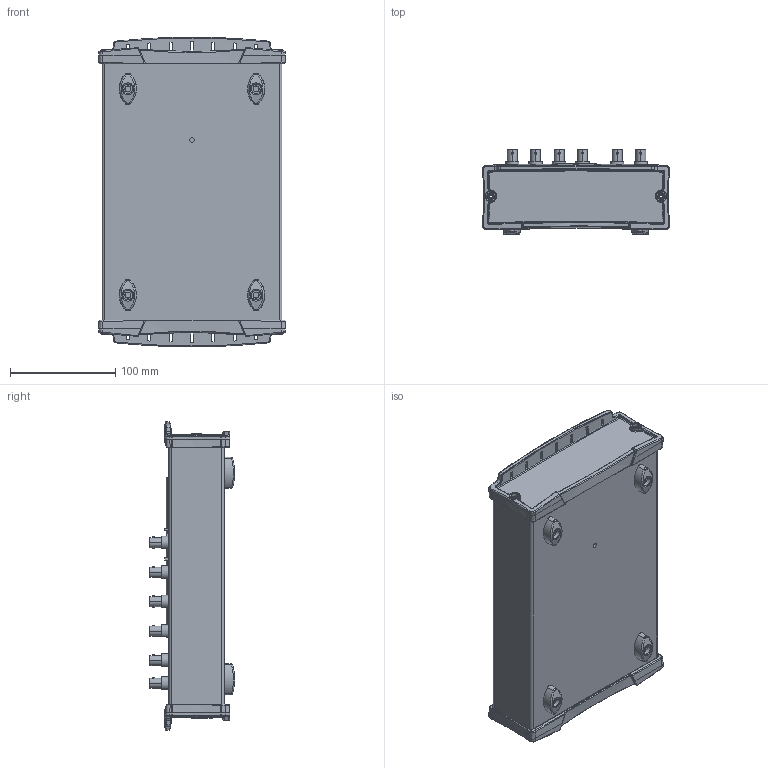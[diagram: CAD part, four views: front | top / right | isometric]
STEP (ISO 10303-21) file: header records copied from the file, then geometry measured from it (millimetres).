
FILE_DESCRIPTION((''),'2;1');
FILE_NAME('CU_USB-6251','2007-11-15T',('tvenable'),(''),'PRO/ENGINEER BY PARAMETRIC TECHNOLOGY CORPORATION, 2006080','PRO/ENGINEER BY PARAMETRIC TECHNOLOGY CORPORATION, 2006080','');
FILE_SCHEMA(('CONFIG_CONTROL_DESIGN'));
Products named in the file (1): CU_USB-6251
Bounding box: 177.29 x 81.15 x 294.13 mm (x, y, z)
Volume: 626128.8 mm3; surface area: 437572.8 mm2
Topology: 19 solids, 19 shells, 4675 faces, 11472 edges, 7428 vertices
Faces by surface type: plane 2757, cylinder 1242, bspline 414, cone 154, torus 98, extrusion 8, sphere 2
Entity records: 163780 total; most frequent: CARTESIAN_POINT 54101, ORIENTED_EDGE 22936, DIRECTION 21861, EDGE_CURVE 11468, VERTEX_POINT 7428, AXIS2_PLACEMENT_3D 7301, VECTOR 7259, LINE 7251
